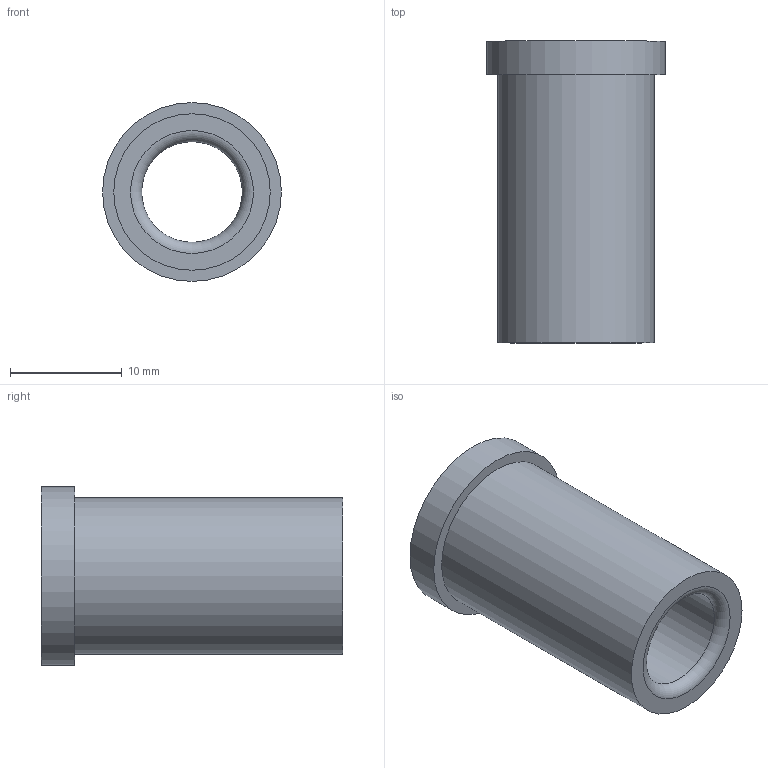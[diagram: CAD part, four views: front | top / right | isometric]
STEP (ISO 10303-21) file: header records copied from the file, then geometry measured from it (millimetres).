
FILE_DESCRIPTION(/* description */ ('STEP AP214'),/* implementation_level */ '2;1');
FILE_NAME(/* name */ '03_12_17833',/* time_stamp */ '2023-06-15T11:35:20+02:00',/* author */ ('License CC BY-ND 4.0'),/* organization */ ('CADENAS'),/* preprocessor_version */ 'ST-DEVELOPER v19.3',/* originating_system */ 'PARTsolutions',/* authorisation */ ' ');
FILE_SCHEMA (('AUTOMOTIVE_DESIGN {1 0 10303 214 3 1 1}'));
Length unit declared in the file: millimetre
Products named in the file (1): VA_Bushing_17833
Bounding box: 16 x 27 x 16 mm (x, y, z)
Volume: 2519.6 mm3; surface area: 2230.7 mm2
Topology: 1 solids, 1 shells, 10 faces, 16 edges, 10 vertices
Faces by surface type: cylinder 4, plane 4, torus 2
Full cylindrical faces by diameter (mm): 9 x1, 9.6 x1, 14 x1, 16 x1
Entity records: 302 total; most frequent: DIRECTION 42, CARTESIAN_POINT 31, AXIS2_PLACEMENT_3D 21, ORIENTED_EDGE 20, EDGE_LOOP 20, FACE_BOUND 20, EDGE_CURVE 10, VERTEX_POINT 10
